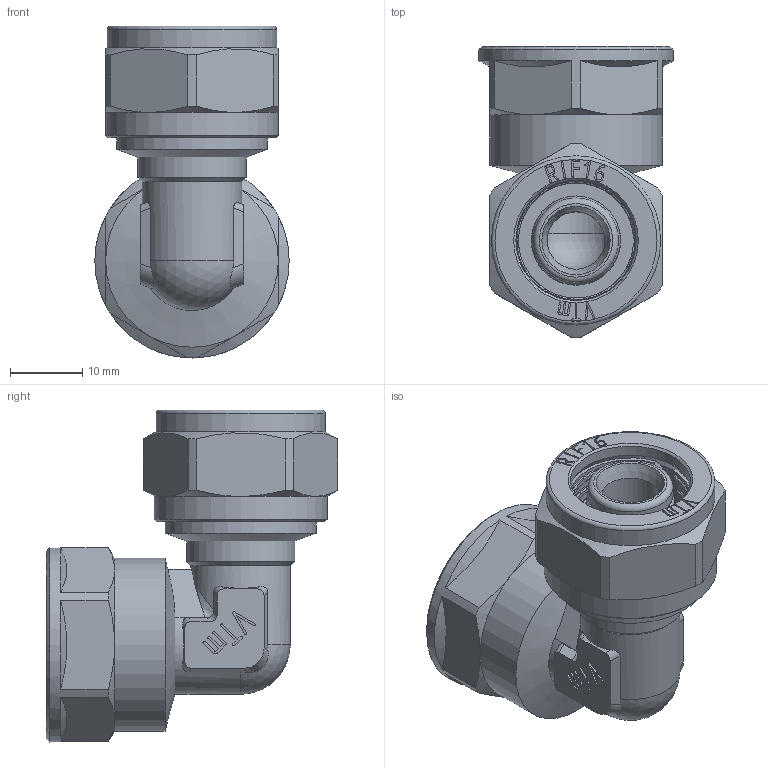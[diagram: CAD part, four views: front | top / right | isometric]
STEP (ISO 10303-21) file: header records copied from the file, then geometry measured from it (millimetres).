
FILE_DESCRIPTION(('STEP AP203'), '1');
FILE_NAME('VTm.352.N.001604', '', ('UNSPECIFIED'), ('UNSPECIFIED'), 'C3D Converter', 'C3D Toolkit', '');
FILE_SCHEMA(('CONFIG_CONTROL_DESIGN'));
Length unit declared in the file: millimetre
Products named in the file (1): ВР.302635.099.000 СБ
Bounding box: 27 x 40.5 x 46.11 mm (x, y, z)
Volume: 11752 mm3; surface area: 10003.6 mm2
Topology: 2 solids, 2 shells, 460 faces, 1255 edges, 824 vertices
Faces by surface type: extrusion 189, plane 158, cylinder 47, cone 35, torus 27, sphere 2, bspline 2
Full cylindrical faces by diameter (mm): 8 x1, 10 x1, 11.8 x4, 12.4 x1, 13.8 x1, 15 x1, 16.2 x1, 16.7 x1, 18.632 x2, 20.955 x1, 23.5 x1, 24 x2, 27 x1
Entity records: 16988 total; most frequent: CARTESIAN_POINT 6445, ORIENTED_EDGE 2420, DIRECTION 1547, EDGE_CURVE 1210, VERTEX_POINT 824, VECTOR 745, B_SPLINE_CURVE_WITH_KNOTS 673, LINE 556
